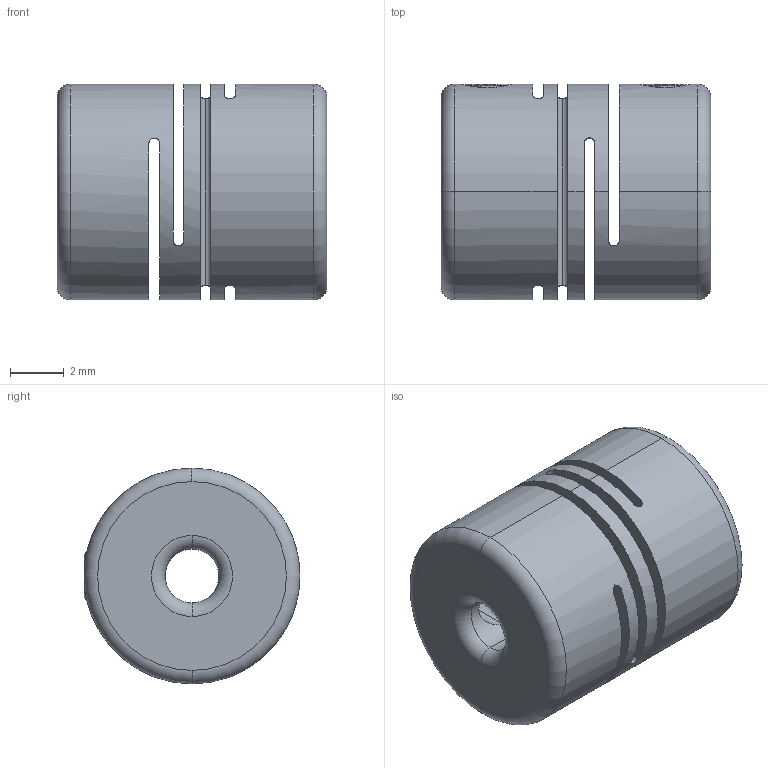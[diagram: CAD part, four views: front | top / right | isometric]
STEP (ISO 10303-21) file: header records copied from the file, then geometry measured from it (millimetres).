
FILE_DESCRIPTION (( 'STEP AP203' ), '1' );
FILE_NAME ('FSMMS8-2x2.STEP', '2014-01-03T07:40:08', ( '123' ), ( '' ), 'SwSTEP 2.0', 'SolidWorks 2013', '' );
FILE_SCHEMA (( 'CONFIG_CONTROL_DESIGN' ));
Length unit declared in the file: millimetre
Products named in the file (1): FSMMS8-2x2
Bounding box: 10 x 8 x 8 mm (x, y, z)
Surface area: 680.2 mm2 (no closed solid volume)
Topology: 0 solids, 5 shells, 64 faces, 180 edges, 120 vertices
Faces by surface type: plane 24, cylinder 20, torus 8, cone 8, bspline 4
Entity records: 2441 total; most frequent: CARTESIAN_POINT 709, DIRECTION 346, ORIENTED_EDGE 324, EDGE_CURVE 180, AXIS2_PLACEMENT_3D 137, VERTEX_POINT 120, EDGE_LOOP 80, CIRCLE 76
